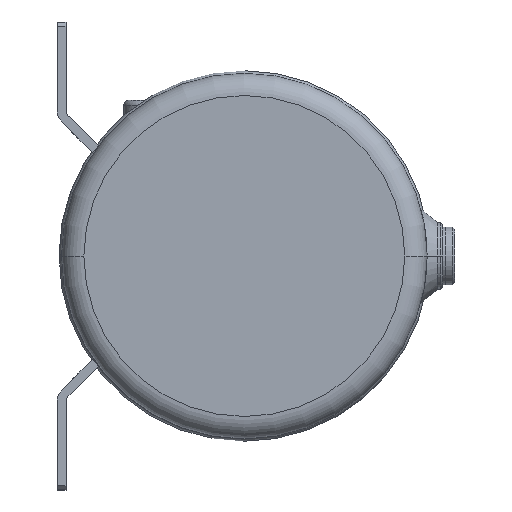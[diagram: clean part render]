
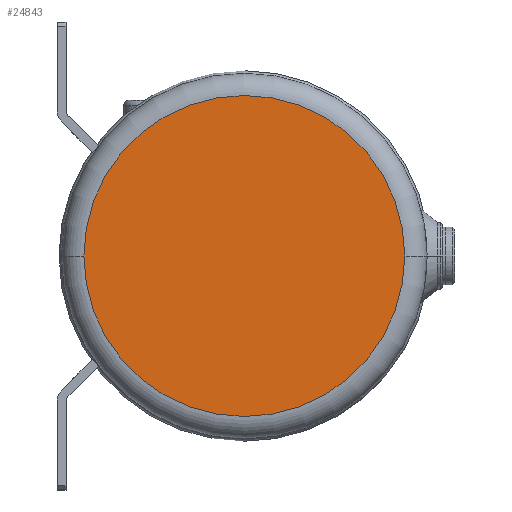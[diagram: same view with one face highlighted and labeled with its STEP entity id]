
A CAD part, front view. The second image highlights one B-rep face of the part: STEP entity #24843.
In plain terms, the highlighted planar face has unit normal (0, -1, 0).
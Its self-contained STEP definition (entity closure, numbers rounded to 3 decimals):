
#4585 = DIRECTION ( 'NONE',  ( 0., -1., 0. ) ) ;
#4586 = CARTESIAN_POINT ( 'NONE',  ( -37.668, -95.461, -64.718 ) ) ;
#4587 = AXIS2_PLACEMENT_3D ( 'NONE', #4586, #4585, #4710 ) ;
#4588 = PLANE ( 'NONE',  #4587 ) ;
#4594 = FACE_OUTER_BOUND ( 'NONE', #24844, .T. ) ;
#4595 = DIRECTION ( 'NONE',  ( -1., 0., 0. ) ) ;
#4596 = DIRECTION ( 'NONE',  ( 0., -1., 0. ) ) ;
#4597 = CARTESIAN_POINT ( 'NONE',  ( -37.668, -95.461, 7.282 ) ) ;
#4599 = AXIS2_PLACEMENT_3D ( 'NONE', #4597, #4596, #4595 ) ;
#4601 = CIRCLE ( 'NONE', #4599, 72. ) ;
#4710 = DIRECTION ( 'NONE',  ( -1., 0., 0. ) ) ;
#23458 = VERTEX_POINT ( 'NONE', #39286 ) ;
#23460 = EDGE_CURVE ( 'NONE', #23461, #23458, #39285, .T. ) ;
#23461 = VERTEX_POINT ( 'NONE', #39280 ) ;
#24842 = EDGE_CURVE ( 'NONE', #23458, #23461, #4601, .T. ) ;
#24843 = ADVANCED_FACE ( 'NONE', ( #4594 ), #4588, .T. ) ;
#24844 = EDGE_LOOP ( 'NONE', ( #24845, #24846 ) ) ;
#24845 = ORIENTED_EDGE ( 'NONE', *, *, #23460, .T. ) ;
#24846 = ORIENTED_EDGE ( 'NONE', *, *, #24842, .T. ) ;
#39280 = CARTESIAN_POINT ( 'NONE',  ( -109.668, -95.461, 7.282 ) ) ;
#39281 = DIRECTION ( 'NONE',  ( -1., 0., 0. ) ) ;
#39282 = DIRECTION ( 'NONE',  ( 0., -1., 0. ) ) ;
#39283 = CARTESIAN_POINT ( 'NONE',  ( -37.668, -95.461, 7.282 ) ) ;
#39284 = AXIS2_PLACEMENT_3D ( 'NONE', #39283, #39282, #39281 ) ;
#39285 = CIRCLE ( 'NONE', #39284, 72. ) ;
#39286 = CARTESIAN_POINT ( 'NONE',  ( 34.332, -95.461, 7.282 ) ) ;
